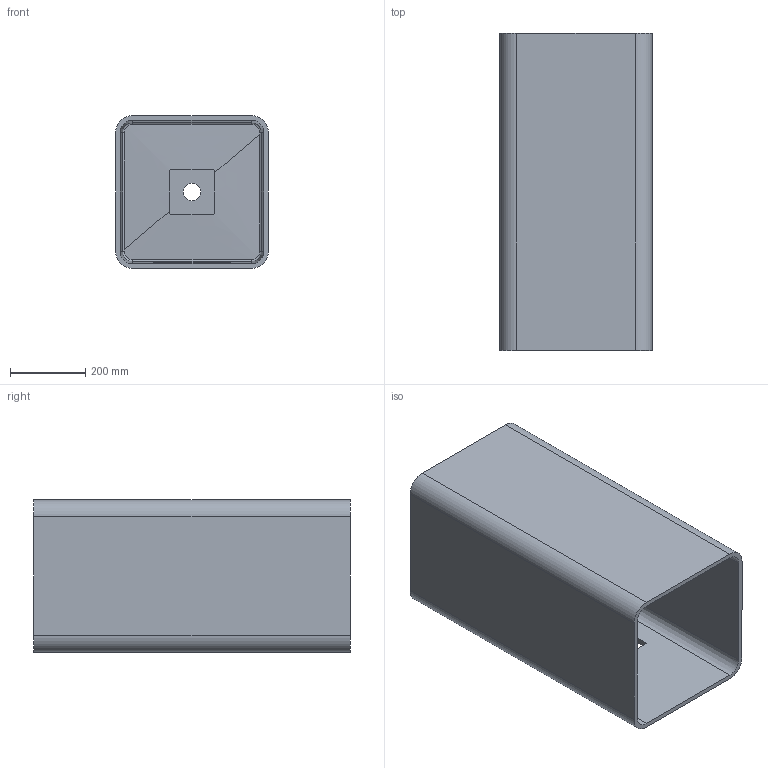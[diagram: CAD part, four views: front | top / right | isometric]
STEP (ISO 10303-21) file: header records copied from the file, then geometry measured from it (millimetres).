
FILE_DESCRIPTION (( 'STEP AP203' ), '1' );
FILE_NAME ('PW07.STEP', '2016-10-14T08:41:28', ( '旮僅薊襠http://www.deepbbs.org' ), ( 'http://www.deepbbs.org' ), 'SwSTEP 2.0', 'SolidWorks 2014', '' );
FILE_SCHEMA (( 'CONFIG_CONTROL_DESIGN' ));
Length unit declared in the file: millimetre
Products named in the file (1): PW07
Bounding box: 406 x 842.45 x 406 mm (x, y, z)
Volume: 20500474.8 mm3; surface area: 2704215.5 mm2
Topology: 1 solids, 1 shells, 63 faces, 162 edges, 102 vertices
Faces by surface type: plane 23, bspline 20, cylinder 10, cone 10
Entity records: 5007 total; most frequent: CARTESIAN_POINT 3542, ORIENTED_EDGE 324, DIRECTION 236, EDGE_CURVE 162, VERTEX_POINT 102, AXIS2_PLACEMENT_3D 84, LINE 68, EDGE_LOOP 68
